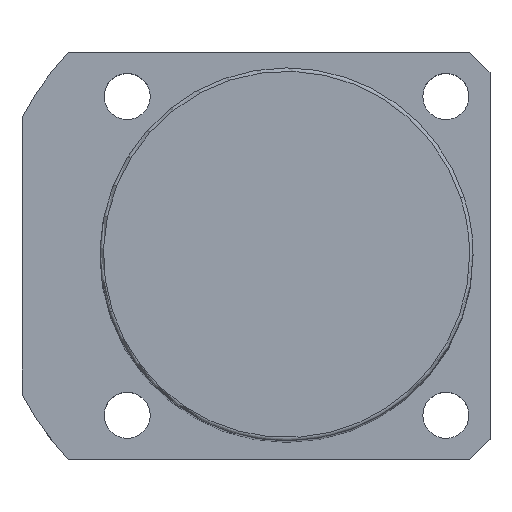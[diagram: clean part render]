
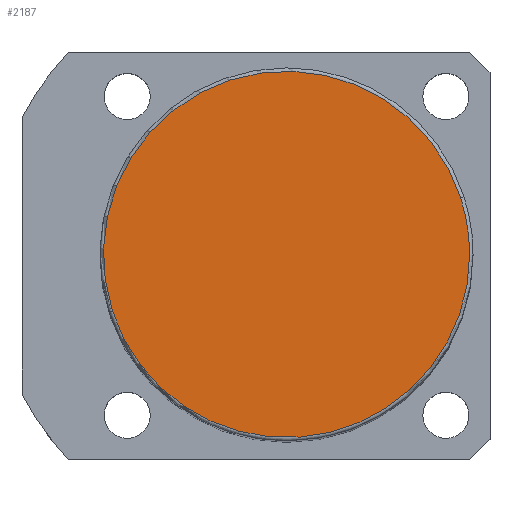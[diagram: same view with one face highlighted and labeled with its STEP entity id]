
A CAD part, top view. The second image highlights one B-rep face of the part: STEP entity #2187.
In plain terms, the highlighted planar face has unit normal (0, 0, 1).
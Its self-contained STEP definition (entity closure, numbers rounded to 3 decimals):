
#2120=CARTESIAN_POINT('',(25.679,8.343,136.0));
#2121=VERTEX_POINT('',#2120);
#2139=CARTESIAN_POINT('',(-25.679,-8.343,136.0));
#2140=VERTEX_POINT('',#2139);
#2148=CARTESIAN_POINT('',(0.0,0.0,136.0));
#2149=DIRECTION('',(0.0,0.0,1.0));
#2150=DIRECTION('',(1.0,0.0,0.0));
#2151=AXIS2_PLACEMENT_3D('',#2148,#2149,#2150);
#2152=CIRCLE('',#2151,27.0);
#2153=EDGE_CURVE('no 2186',#2121,#2140,#2152,.T.);
#2163=CARTESIAN_POINT('',(27.0,0.0,136.0));
#2164=VERTEX_POINT('',#2163);
#2165=CARTESIAN_POINT('',(0.0,0.0,136.0));
#2166=DIRECTION('',(0.0,0.0,1.0));
#2167=DIRECTION('',(1.0,0.0,0.0));
#2168=AXIS2_PLACEMENT_3D('',#2165,#2166,#2167);
#2169=CIRCLE('',#2168,27.0);
#2170=EDGE_CURVE('no 2195',#2164,#2121,#2169,.T.);
#2171=ORIENTED_EDGE('',*,*,#2170,.T.);
#2172=ORIENTED_EDGE('',*,*,#2153,.T.);
#2173=CARTESIAN_POINT('',(0.0,0.0,136.0));
#2174=DIRECTION('',(0.0,0.0,1.0));
#2175=DIRECTION('',(1.0,0.0,0.0));
#2176=AXIS2_PLACEMENT_3D('',#2173,#2174,#2175);
#2177=CIRCLE('',#2176,27.0);
#2178=EDGE_CURVE('no 2201',#2140,#2164,#2177,.T.);
#2179=ORIENTED_EDGE('',*,*,#2178,.T.);
#2180=EDGE_LOOP('',(#2171,#2172,#2179));
#2181=FACE_OUTER_BOUND('',#2180,.T.);
#2182=CARTESIAN_POINT('',(0.0,0.0,136.0));
#2183=DIRECTION('',(0.0,0.0,1.0));
#2184=DIRECTION('',(1.0,0.0,0.0));
#2185=AXIS2_PLACEMENT_3D('',#2182,#2183,#2184);
#2186=PLANE('',#2185);
#2187=ADVANCED_FACE('no 2188',(#2181),#2186,.T.);
